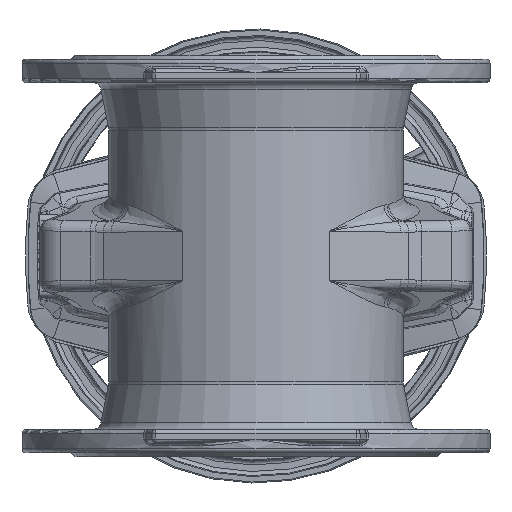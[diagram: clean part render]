
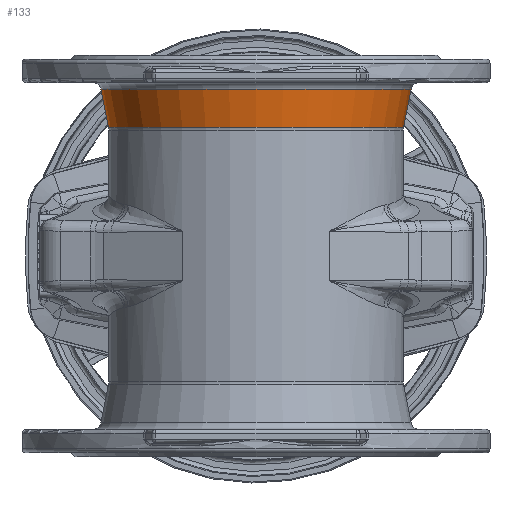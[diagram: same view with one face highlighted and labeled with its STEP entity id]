
A CAD part, front view. The second image highlights one B-rep face of the part: STEP entity #133.
In plain terms, the highlighted conical face has half-angle 11 degrees and reference radius 112.61 mm.
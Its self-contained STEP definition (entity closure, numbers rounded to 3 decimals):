
#133 = ADVANCED_FACE ( 'NONE', ( #23968, #23960 ), #23971, .T. ) ;
#2187 = AXIS2_PLACEMENT_3D ( 'NONE', #18925, #18927, #18928 ) ;
#2188 = AXIS2_PLACEMENT_3D ( 'NONE', #18932, #18934, #18935 ) ;
#5414 = CIRCLE ( 'NONE', #2187, 107.22 ) ;
#5415 = CIRCLE ( 'NONE', #2188, 112.61 ) ;
#14295 = CARTESIAN_POINT ( 'NONE',  ( 107.22, 0., 93.417 ) ) ;
#14296 = CARTESIAN_POINT ( 'NONE',  ( 112.61, 0., 121.145 ) ) ;
#14531 = VERTEX_POINT ( 'NONE', #14295 ) ;
#14532 = VERTEX_POINT ( 'NONE', #14296 ) ;
#18925 = CARTESIAN_POINT ( 'NONE',  ( 0., 0., 93.417 ) ) ;
#18927 = DIRECTION ( 'NONE',  ( 0., 0., 1. ) ) ;
#18928 = DIRECTION ( 'NONE',  ( 1., 0., 0. ) ) ;
#18932 = CARTESIAN_POINT ( 'NONE',  ( 0., 0., 121.145 ) ) ;
#18934 = DIRECTION ( 'NONE',  ( 0., 0., 1. ) ) ;
#18935 = DIRECTION ( 'NONE',  ( 1., 0., 0. ) ) ;
#22291 = AXIS2_PLACEMENT_3D ( 'NONE', #29944, #29946, #29918 ) ;
#23960 = FACE_OUTER_BOUND ( 'NONE', #24740, .T. ) ;
#23968 = FACE_BOUND ( 'NONE', #24756, .T. ) ;
#23971 = CONICAL_SURFACE ( 'NONE', #22291, 112.61, 0.192 ) ;
#24740 = EDGE_LOOP ( 'NONE', ( #32339 ) ) ;
#24756 = EDGE_LOOP ( 'NONE', ( #32352 ) ) ;
#29918 = DIRECTION ( 'NONE',  ( 1., 0., 0. ) ) ;
#29944 = CARTESIAN_POINT ( 'NONE',  ( 0., 0., 121.145 ) ) ;
#29946 = DIRECTION ( 'NONE',  ( 0., 0., 1. ) ) ;
#32339 = ORIENTED_EDGE ( 'NONE', *, *, #33132, .F. ) ;
#32352 = ORIENTED_EDGE ( 'NONE', *, *, #33131, .T. ) ;
#33131 = EDGE_CURVE ( 'NONE', #14531, #14531, #5414, .T. ) ;
#33132 = EDGE_CURVE ( 'NONE', #14532, #14532, #5415, .T. ) ;
